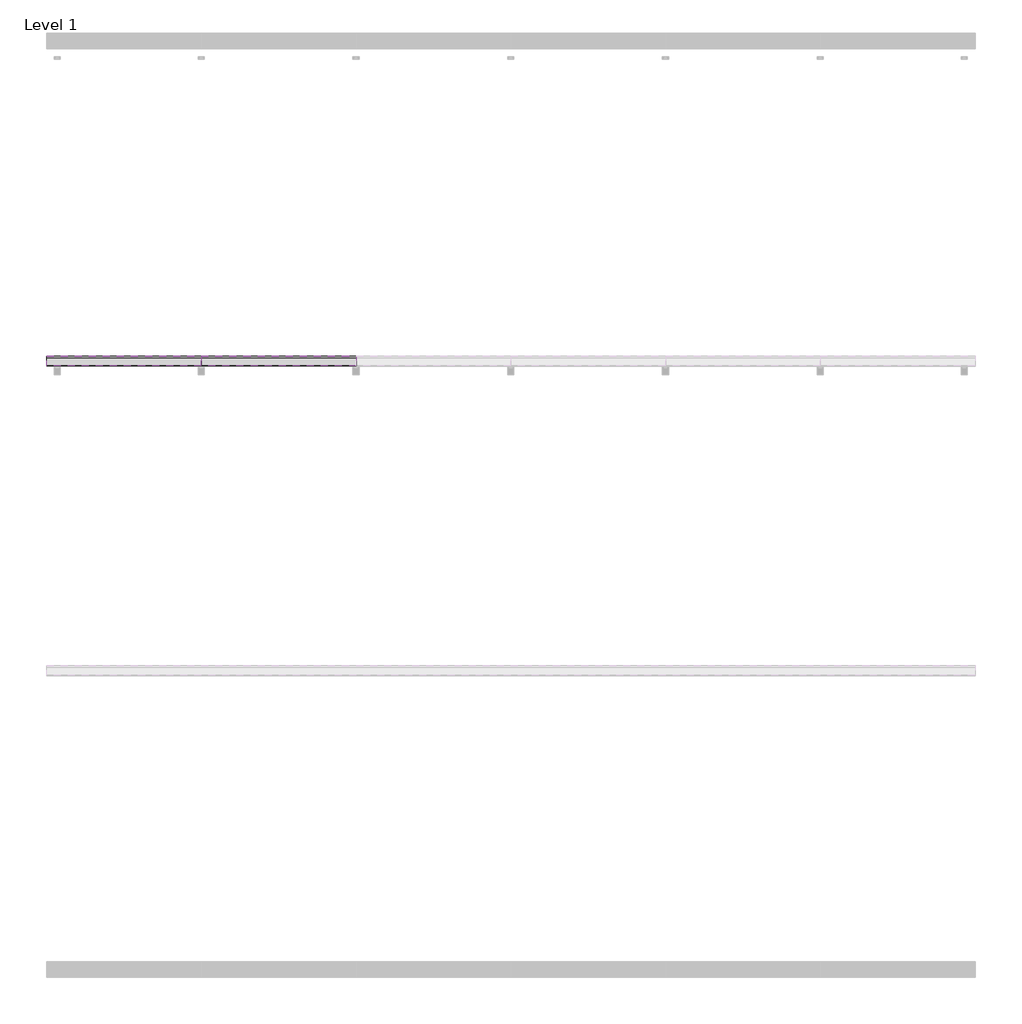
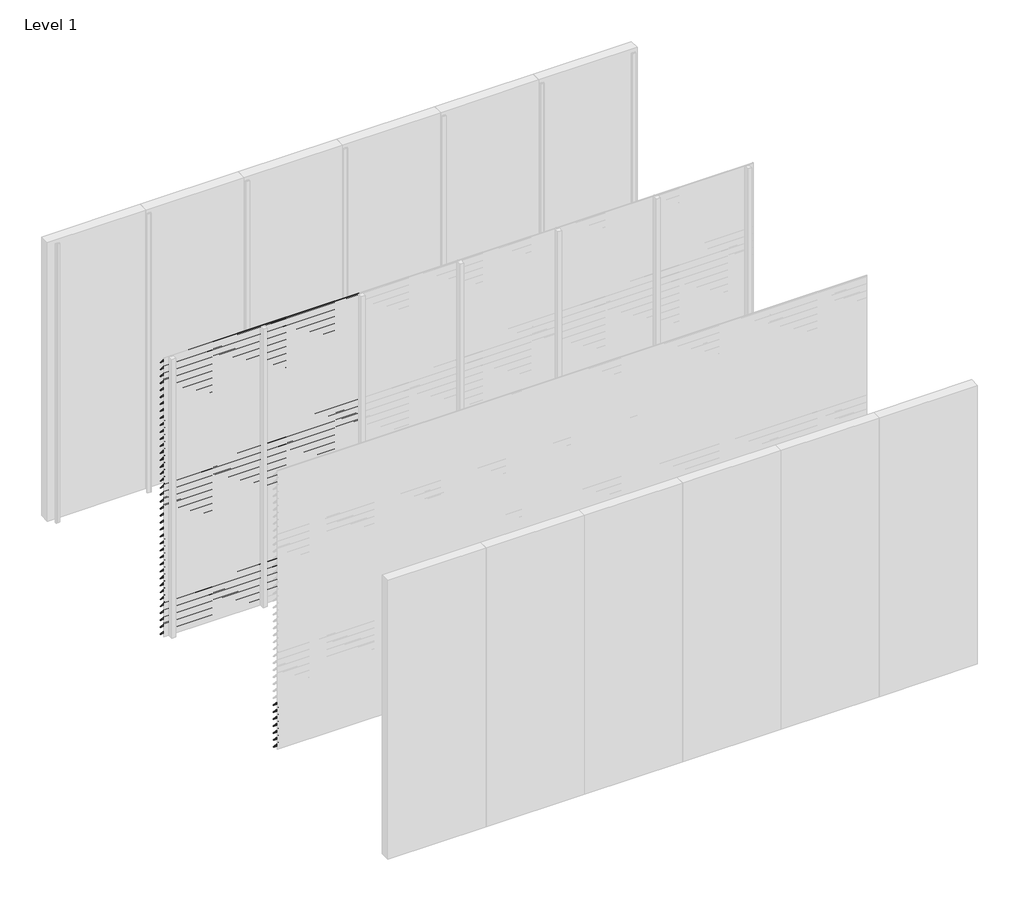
# One storey, part 17 of 35: 86 proxies.
"""IFC4 building model written with IfcOpenShell, lengths in millimetres."""

from ifc_helpers import new_model, si_unit, frame, origin, place, context, project, spatial, polyline, outline, extrude, element, save

model = new_model("IFC4")

# Units and contexts
model_context = context("Model", 3, world=origin())
ifc_project = project(units=[si_unit("LENGTHUNIT", "METRE", prefix="MILLI")], contexts=[model_context])

# Site, building, storey
site = spatial("IfcSite", under=ifc_project)
building = spatial("IfcBuilding", under=site)
storey = spatial("IfcBuildingStorey", under=building, Name="Level 1", Elevation=0.0)

# Proxies
placement = place(None, origin())
element("IfcBuildingElementProxy", 1, Name="Wall Sweeps", at=placement, inside=storey, context=model_context, shape_type="SweptSolid", body=[
    extrude(outline(polyline([(-29996.5, 3000.0), (-29996.5, 2985.5463701), (-29934.5, 2913.9330051), (-29934.5, 2910.4), (-29936.0, 2910.4), (-29936.0, 2913.3738975), (-29998.0, 2984.9872626), (-29998.0, 3000.0), (-29996.5, 3000.0)])), frame((0.0, 0.0, 0.0), z_axis=(1.0, 0.0, 0.0), x_axis=(0.0, 1.0, 0.0)), (0.0, 0.0, 1.0), 1000.0),
])
element("IfcBuildingElementProxy", 2, Name="Wall Sweeps", at=placement, inside=storey, context=model_context, shape_type="SweptSolid", body=[
    extrude(outline(polyline([(-29996.5, 2925.0), (-29996.5, 2910.5463701), (-29934.5, 2838.9330051), (-29934.5, 2835.4), (-29936.0, 2835.4), (-29936.0, 2838.3738975), (-29998.0, 2909.9872626), (-29998.0, 2925.0), (-29996.5, 2925.0)])), frame((0.0, 0.0, 0.0), z_axis=(1.0, 0.0, 0.0), x_axis=(0.0, 1.0, 0.0)), (0.0, 0.0, 1.0), 1000.0),
])
element("IfcBuildingElementProxy", 3, Name="Wall Sweeps", at=placement, inside=storey, context=model_context, shape_type="SweptSolid", body=[
    extrude(outline(polyline([(-29996.5, 2850.0), (-29996.5, 2835.5463701), (-29934.5, 2763.9330051), (-29934.5, 2760.4), (-29936.0, 2760.4), (-29936.0, 2763.3738975), (-29998.0, 2834.9872626), (-29998.0, 2850.0), (-29996.5, 2850.0)])), frame((0.0, 0.0, 0.0), z_axis=(1.0, 0.0, 0.0), x_axis=(0.0, 1.0, 0.0)), (0.0, 0.0, 1.0), 1000.0),
])
element("IfcBuildingElementProxy", 4, Name="Wall Sweeps", at=placement, inside=storey, context=model_context, shape_type="SweptSolid", body=[
    extrude(outline(polyline([(-29996.5, 2775.0), (-29996.5, 2760.5463701), (-29934.5, 2688.9330051), (-29934.5, 2685.4), (-29936.0, 2685.4), (-29936.0, 2688.3738975), (-29998.0, 2759.9872626), (-29998.0, 2775.0), (-29996.5, 2775.0)])), frame((0.0, 0.0, 0.0), z_axis=(1.0, 0.0, 0.0), x_axis=(0.0, 1.0, 0.0)), (0.0, 0.0, 1.0), 1000.0),
])
element("IfcBuildingElementProxy", 5, Name="Wall Sweeps", at=placement, inside=storey, context=model_context, shape_type="SweptSolid", body=[
    extrude(outline(polyline([(-29996.5, 2700.0), (-29996.5, 2685.5463701), (-29934.5, 2613.9330051), (-29934.5, 2610.4), (-29936.0, 2610.4), (-29936.0, 2613.3738975), (-29998.0, 2684.9872626), (-29998.0, 2700.0), (-29996.5, 2700.0)])), frame((0.0, 0.0, 0.0), z_axis=(1.0, 0.0, 0.0), x_axis=(0.0, 1.0, 0.0)), (0.0, 0.0, 1.0), 1000.0),
])
element("IfcBuildingElementProxy", 6, Name="Wall Sweeps", at=placement, inside=storey, context=model_context, shape_type="SweptSolid", body=[
    extrude(outline(polyline([(-29996.5, 2625.0), (-29996.5, 2610.5463701), (-29934.5, 2538.9330051), (-29934.5, 2535.4), (-29936.0, 2535.4), (-29936.0, 2538.3738975), (-29998.0, 2609.9872626), (-29998.0, 2625.0), (-29996.5, 2625.0)])), frame((0.0, 0.0, 0.0), z_axis=(1.0, 0.0, 0.0), x_axis=(0.0, 1.0, 0.0)), (0.0, 0.0, 1.0), 1000.0),
])
element("IfcBuildingElementProxy", 7, Name="Wall Sweeps", at=placement, inside=storey, context=model_context, shape_type="SweptSolid", body=[
    extrude(outline(polyline([(-29996.5, 2550.0), (-29996.5, 2535.5463701), (-29934.5, 2463.9330051), (-29934.5, 2460.4), (-29936.0, 2460.4), (-29936.0, 2463.3738975), (-29998.0, 2534.9872626), (-29998.0, 2550.0), (-29996.5, 2550.0)])), frame((0.0, 0.0, 0.0), z_axis=(1.0, 0.0, 0.0), x_axis=(0.0, 1.0, 0.0)), (0.0, 0.0, 1.0), 1000.0),
])
element("IfcBuildingElementProxy", 8, Name="Wall Sweeps", at=placement, inside=storey, context=model_context, shape_type="SweptSolid", body=[
    extrude(outline(polyline([(-29996.5, 2475.0), (-29996.5, 2460.5463701), (-29934.5, 2388.9330051), (-29934.5, 2385.4), (-29936.0, 2385.4), (-29936.0, 2388.3738975), (-29998.0, 2459.9872626), (-29998.0, 2475.0), (-29996.5, 2475.0)])), frame((0.0, 0.0, 0.0), z_axis=(1.0, 0.0, 0.0), x_axis=(0.0, 1.0, 0.0)), (0.0, 0.0, 1.0), 1000.0),
])
element("IfcBuildingElementProxy", 9, Name="Wall Sweeps", at=placement, inside=storey, context=model_context, shape_type="SweptSolid", body=[
    extrude(outline(polyline([(-29996.5, 2400.0), (-29996.5, 2385.5463701), (-29934.5, 2313.9330051), (-29934.5, 2310.4), (-29936.0, 2310.4), (-29936.0, 2313.3738975), (-29998.0, 2384.9872626), (-29998.0, 2400.0), (-29996.5, 2400.0)])), frame((0.0, 0.0, 0.0), z_axis=(1.0, 0.0, 0.0), x_axis=(0.0, 1.0, 0.0)), (0.0, 0.0, 1.0), 1000.0),
])
element("IfcBuildingElementProxy", 10, Name="Wall Sweeps", at=placement, inside=storey, context=model_context, shape_type="SweptSolid", body=[
    extrude(outline(polyline([(-29996.5, 2325.0), (-29996.5, 2310.5463701), (-29934.5, 2238.9330051), (-29934.5, 2235.4), (-29936.0, 2235.4), (-29936.0, 2238.3738975), (-29998.0, 2309.9872626), (-29998.0, 2325.0), (-29996.5, 2325.0)])), frame((0.0, 0.0, 0.0), z_axis=(1.0, 0.0, 0.0), x_axis=(0.0, 1.0, 0.0)), (0.0, 0.0, 1.0), 1000.0),
])
element("IfcBuildingElementProxy", 11, Name="Wall Sweeps", at=placement, inside=storey, context=model_context, shape_type="SweptSolid", body=[
    extrude(outline(polyline([(-29996.5, 2250.0), (-29996.5, 2235.5463701), (-29934.5, 2163.9330051), (-29934.5, 2160.4), (-29936.0, 2160.4), (-29936.0, 2163.3738975), (-29998.0, 2234.9872626), (-29998.0, 2250.0), (-29996.5, 2250.0)])), frame((0.0, 0.0, 0.0), z_axis=(1.0, 0.0, 0.0), x_axis=(0.0, 1.0, 0.0)), (0.0, 0.0, 1.0), 1000.0),
])
element("IfcBuildingElementProxy", 12, Name="Wall Sweeps", at=placement, inside=storey, context=model_context, shape_type="SweptSolid", body=[
    extrude(outline(polyline([(-29996.5, 2175.0), (-29996.5, 2160.5463701), (-29934.5, 2088.9330051), (-29934.5, 2085.4), (-29936.0, 2085.4), (-29936.0, 2088.3738975), (-29998.0, 2159.9872626), (-29998.0, 2175.0), (-29996.5, 2175.0)])), frame((0.0, 0.0, 0.0), z_axis=(1.0, 0.0, 0.0), x_axis=(0.0, 1.0, 0.0)), (0.0, 0.0, 1.0), 1000.0),
])
element("IfcBuildingElementProxy", 13, Name="Wall Sweeps", at=placement, inside=storey, context=model_context, shape_type="SweptSolid", body=[
    extrude(outline(polyline([(-29996.5, 2100.0), (-29996.5, 2085.5463701), (-29934.5, 2013.9330051), (-29934.5, 2010.4), (-29936.0, 2010.4), (-29936.0, 2013.3738975), (-29998.0, 2084.9872626), (-29998.0, 2100.0), (-29996.5, 2100.0)])), frame((0.0, 0.0, 0.0), z_axis=(1.0, 0.0, 0.0), x_axis=(0.0, 1.0, 0.0)), (0.0, 0.0, 1.0), 1000.0),
])
element("IfcBuildingElementProxy", 14, Name="Wall Sweeps", at=placement, inside=storey, context=model_context, shape_type="SweptSolid", body=[
    extrude(outline(polyline([(-29996.5, 2025.0), (-29996.5, 2010.5463701), (-29934.5, 1938.9330051), (-29934.5, 1935.4), (-29936.0, 1935.4), (-29936.0, 1938.3738975), (-29998.0, 2009.9872626), (-29998.0, 2025.0), (-29996.5, 2025.0)])), frame((0.0, 0.0, 0.0), z_axis=(1.0, 0.0, 0.0), x_axis=(0.0, 1.0, 0.0)), (0.0, 0.0, 1.0), 1000.0),
])
element("IfcBuildingElementProxy", 15, Name="Wall Sweeps", at=placement, inside=storey, context=model_context, shape_type="SweptSolid", body=[
    extrude(outline(polyline([(-29996.5, 1950.0), (-29996.5, 1935.5463701), (-29934.5, 1863.9330051), (-29934.5, 1860.4), (-29936.0, 1860.4), (-29936.0, 1863.3738975), (-29998.0, 1934.9872626), (-29998.0, 1950.0), (-29996.5, 1950.0)])), frame((0.0, 0.0, 0.0), z_axis=(1.0, 0.0, 0.0), x_axis=(0.0, 1.0, 0.0)), (0.0, 0.0, 1.0), 1000.0),
])
element("IfcBuildingElementProxy", 16, Name="Wall Sweeps", at=placement, inside=storey, context=model_context, shape_type="SweptSolid", body=[
    extrude(outline(polyline([(-29996.5, 1875.0), (-29996.5, 1860.5463701), (-29934.5, 1788.9330051), (-29934.5, 1785.4), (-29936.0, 1785.4), (-29936.0, 1788.3738975), (-29998.0, 1859.9872626), (-29998.0, 1875.0), (-29996.5, 1875.0)])), frame((0.0, 0.0, 0.0), z_axis=(1.0, 0.0, 0.0), x_axis=(0.0, 1.0, 0.0)), (0.0, 0.0, 1.0), 1000.0),
])
element("IfcBuildingElementProxy", 17, Name="Wall Sweeps", at=placement, inside=storey, context=model_context, shape_type="SweptSolid", body=[
    extrude(outline(polyline([(-29996.5, 1800.0), (-29996.5, 1785.5463701), (-29934.5, 1713.9330051), (-29934.5, 1710.4), (-29936.0, 1710.4), (-29936.0, 1713.3738975), (-29998.0, 1784.9872626), (-29998.0, 1800.0), (-29996.5, 1800.0)])), frame((0.0, 0.0, 0.0), z_axis=(1.0, 0.0, 0.0), x_axis=(0.0, 1.0, 0.0)), (0.0, 0.0, 1.0), 1000.0),
])
element("IfcBuildingElementProxy", 18, Name="Wall Sweeps", at=placement, inside=storey, context=model_context, shape_type="SweptSolid", body=[
    extrude(outline(polyline([(-29996.5, 1725.0), (-29996.5, 1710.5463701), (-29934.5, 1638.9330051), (-29934.5, 1635.4), (-29936.0, 1635.4), (-29936.0, 1638.3738975), (-29998.0, 1709.9872626), (-29998.0, 1725.0), (-29996.5, 1725.0)])), frame((0.0, 0.0, 0.0), z_axis=(1.0, 0.0, 0.0), x_axis=(0.0, 1.0, 0.0)), (0.0, 0.0, 1.0), 1000.0),
])
element("IfcBuildingElementProxy", 19, Name="Wall Sweeps", at=placement, inside=storey, context=model_context, shape_type="SweptSolid", body=[
    extrude(outline(polyline([(-29996.5, 1650.0), (-29996.5, 1635.5463701), (-29934.5, 1563.9330051), (-29934.5, 1560.4), (-29936.0, 1560.4), (-29936.0, 1563.3738975), (-29998.0, 1634.9872626), (-29998.0, 1650.0), (-29996.5, 1650.0)])), frame((0.0, 0.0, 0.0), z_axis=(1.0, 0.0, 0.0), x_axis=(0.0, 1.0, 0.0)), (0.0, 0.0, 1.0), 1000.0),
])
element("IfcBuildingElementProxy", 20, Name="Wall Sweeps", at=placement, inside=storey, context=model_context, shape_type="SweptSolid", body=[
    extrude(outline(polyline([(-29996.5, 1575.0), (-29996.5, 1560.5463701), (-29934.5, 1488.9330051), (-29934.5, 1485.4), (-29936.0, 1485.4), (-29936.0, 1488.3738975), (-29998.0, 1559.9872626), (-29998.0, 1575.0), (-29996.5, 1575.0)])), frame((0.0, 0.0, 0.0), z_axis=(1.0, 0.0, 0.0), x_axis=(0.0, 1.0, 0.0)), (0.0, 0.0, 1.0), 1000.0),
])
element("IfcBuildingElementProxy", 21, Name="Wall Sweeps", at=placement, inside=storey, context=model_context, shape_type="SweptSolid", body=[
    extrude(outline(polyline([(-29996.5, 1500.0), (-29996.5, 1485.5463701), (-29934.5, 1413.9330051), (-29934.5, 1410.4), (-29936.0, 1410.4), (-29936.0, 1413.3738975), (-29998.0, 1484.9872626), (-29998.0, 1500.0), (-29996.5, 1500.0)])), frame((0.0, 0.0, 0.0), z_axis=(1.0, 0.0, 0.0), x_axis=(0.0, 1.0, 0.0)), (0.0, 0.0, 1.0), 1000.0),
])
element("IfcBuildingElementProxy", 22, Name="Wall Sweeps", at=placement, inside=storey, context=model_context, shape_type="SweptSolid", body=[
    extrude(outline(polyline([(-29996.5, 1425.0), (-29996.5, 1410.5463701), (-29934.5, 1338.9330051), (-29934.5, 1335.4), (-29936.0, 1335.4), (-29936.0, 1338.3738975), (-29998.0, 1409.9872626), (-29998.0, 1425.0), (-29996.5, 1425.0)])), frame((0.0, 0.0, 0.0), z_axis=(1.0, 0.0, 0.0), x_axis=(0.0, 1.0, 0.0)), (0.0, 0.0, 1.0), 1000.0),
])
element("IfcBuildingElementProxy", 23, Name="Wall Sweeps", at=placement, inside=storey, context=model_context, shape_type="SweptSolid", body=[
    extrude(outline(polyline([(-29996.5, 1350.0), (-29996.5, 1335.5463701), (-29934.5, 1263.9330051), (-29934.5, 1260.4), (-29936.0, 1260.4), (-29936.0, 1263.3738975), (-29998.0, 1334.9872626), (-29998.0, 1350.0), (-29996.5, 1350.0)])), frame((0.0, 0.0, 0.0), z_axis=(1.0, 0.0, 0.0), x_axis=(0.0, 1.0, 0.0)), (0.0, 0.0, 1.0), 1000.0),
])
element("IfcBuildingElementProxy", 24, Name="Wall Sweeps", at=placement, inside=storey, context=model_context, shape_type="SweptSolid", body=[
    extrude(outline(polyline([(-29996.5, 1275.0), (-29996.5, 1260.5463701), (-29934.5, 1188.9330051), (-29934.5, 1185.4), (-29936.0, 1185.4), (-29936.0, 1188.3738975), (-29998.0, 1259.9872626), (-29998.0, 1275.0), (-29996.5, 1275.0)])), frame((0.0, 0.0, 0.0), z_axis=(1.0, 0.0, 0.0), x_axis=(0.0, 1.0, 0.0)), (0.0, 0.0, 1.0), 1000.0),
])
element("IfcBuildingElementProxy", 25, Name="Wall Sweeps", at=placement, inside=storey, context=model_context, shape_type="SweptSolid", body=[
    extrude(outline(polyline([(-29996.5, 1200.0), (-29996.5, 1185.5463701), (-29934.5, 1113.9330051), (-29934.5, 1110.4), (-29936.0, 1110.4), (-29936.0, 1113.3738975), (-29998.0, 1184.9872626), (-29998.0, 1200.0), (-29996.5, 1200.0)])), frame((0.0, 0.0, 0.0), z_axis=(1.0, 0.0, 0.0), x_axis=(0.0, 1.0, 0.0)), (0.0, 0.0, 1.0), 1000.0),
])
element("IfcBuildingElementProxy", 26, Name="Wall Sweeps", at=placement, inside=storey, context=model_context, shape_type="SweptSolid", body=[
    extrude(outline(polyline([(-29996.5, 1125.0), (-29996.5, 1110.5463701), (-29934.5, 1038.9330051), (-29934.5, 1035.4), (-29936.0, 1035.4), (-29936.0, 1038.3738975), (-29998.0, 1109.9872626), (-29998.0, 1125.0), (-29996.5, 1125.0)])), frame((0.0, 0.0, 0.0), z_axis=(1.0, 0.0, 0.0), x_axis=(0.0, 1.0, 0.0)), (0.0, 0.0, 1.0), 1000.0),
])
element("IfcBuildingElementProxy", 27, Name="Wall Sweeps", at=placement, inside=storey, context=model_context, shape_type="SweptSolid", body=[
    extrude(outline(polyline([(-29996.5, 1050.0), (-29996.5, 1035.5463701), (-29934.5, 963.9330051), (-29934.5, 960.4), (-29936.0, 960.4), (-29936.0, 963.3738975), (-29998.0, 1034.9872626), (-29998.0, 1050.0), (-29996.5, 1050.0)])), frame((0.0, 0.0, 0.0), z_axis=(1.0, 0.0, 0.0), x_axis=(0.0, 1.0, 0.0)), (0.0, 0.0, 1.0), 1000.0),
])
element("IfcBuildingElementProxy", 28, Name="Wall Sweeps", at=placement, inside=storey, context=model_context, shape_type="SweptSolid", body=[
    extrude(outline(polyline([(-29996.5, 975.0), (-29996.5, 960.5463701), (-29934.5, 888.9330051), (-29934.5, 885.4), (-29936.0, 885.4), (-29936.0, 888.3738975), (-29998.0, 959.9872626), (-29998.0, 975.0), (-29996.5, 975.0)])), frame((0.0, 0.0, 0.0), z_axis=(1.0, 0.0, 0.0), x_axis=(0.0, 1.0, 0.0)), (0.0, 0.0, 1.0), 1000.0),
])
element("IfcBuildingElementProxy", 29, Name="Wall Sweeps", at=placement, inside=storey, context=model_context, shape_type="SweptSolid", body=[
    extrude(outline(polyline([(-29996.5, 900.0), (-29996.5, 885.5463701), (-29934.5, 813.9330051), (-29934.5, 810.4), (-29936.0, 810.4), (-29936.0, 813.3738975), (-29998.0, 884.9872626), (-29998.0, 900.0), (-29996.5, 900.0)])), frame((0.0, 0.0, 0.0), z_axis=(1.0, 0.0, 0.0), x_axis=(0.0, 1.0, 0.0)), (0.0, 0.0, 1.0), 1000.0),
])
element("IfcBuildingElementProxy", 30, Name="Wall Sweeps", at=placement, inside=storey, context=model_context, shape_type="SweptSolid", body=[
    extrude(outline(polyline([(-29996.5, 825.0), (-29996.5, 810.5463701), (-29934.5, 738.9330051), (-29934.5, 735.4), (-29936.0, 735.4), (-29936.0, 738.3738975), (-29998.0, 809.9872626), (-29998.0, 825.0), (-29996.5, 825.0)])), frame((0.0, 0.0, 0.0), z_axis=(1.0, 0.0, 0.0), x_axis=(0.0, 1.0, 0.0)), (0.0, 0.0, 1.0), 1000.0),
])
element("IfcBuildingElementProxy", 31, Name="Wall Sweeps", at=placement, inside=storey, context=model_context, shape_type="SweptSolid", body=[
    extrude(outline(polyline([(-29996.5, 750.0), (-29996.5, 735.5463701), (-29934.5, 663.9330051), (-29934.5, 660.4), (-29936.0, 660.4), (-29936.0, 663.3738975), (-29998.0, 734.9872626), (-29998.0, 750.0), (-29996.5, 750.0)])), frame((0.0, 0.0, 0.0), z_axis=(1.0, 0.0, 0.0), x_axis=(0.0, 1.0, 0.0)), (0.0, 0.0, 1.0), 1000.0),
])
element("IfcBuildingElementProxy", 32, Name="Wall Sweeps", at=placement, inside=storey, context=model_context, shape_type="SweptSolid", body=[
    extrude(outline(polyline([(-29996.5, 675.0), (-29996.5, 660.5463701), (-29934.5, 588.9330051), (-29934.5, 585.4), (-29936.0, 585.4), (-29936.0, 588.3738975), (-29998.0, 659.9872626), (-29998.0, 675.0), (-29996.5, 675.0)])), frame((0.0, 0.0, 0.0), z_axis=(1.0, 0.0, 0.0), x_axis=(0.0, 1.0, 0.0)), (0.0, 0.0, 1.0), 1000.0),
])
element("IfcBuildingElementProxy", 33, Name="Wall Sweeps", at=placement, inside=storey, context=model_context, shape_type="SweptSolid", body=[
    extrude(outline(polyline([(-29996.5, 600.0), (-29996.5, 585.5463701), (-29934.5, 513.9330051), (-29934.5, 510.4), (-29936.0, 510.4), (-29936.0, 513.3738975), (-29998.0, 584.9872626), (-29998.0, 600.0), (-29996.5, 600.0)])), frame((0.0, 0.0, 0.0), z_axis=(1.0, 0.0, 0.0), x_axis=(0.0, 1.0, 0.0)), (0.0, 0.0, 1.0), 1000.0),
])
element("IfcBuildingElementProxy", 34, Name="Wall Sweeps", at=placement, inside=storey, context=model_context, shape_type="SweptSolid", body=[
    extrude(outline(polyline([(-29996.5, 525.0), (-29996.5, 510.5463701), (-29934.5, 438.9330051), (-29934.5, 435.4), (-29936.0, 435.4), (-29936.0, 438.3738975), (-29998.0, 509.9872626), (-29998.0, 525.0), (-29996.5, 525.0)])), frame((0.0, 0.0, 0.0), z_axis=(1.0, 0.0, 0.0), x_axis=(0.0, 1.0, 0.0)), (0.0, 0.0, 1.0), 1000.0),
])
element("IfcBuildingElementProxy", 35, Name="Wall Sweeps", at=placement, inside=storey, context=model_context, shape_type="SweptSolid", body=[
    extrude(outline(polyline([(-29996.5, 450.0), (-29996.5, 435.5463701), (-29934.5, 363.9330051), (-29934.5, 360.4), (-29936.0, 360.4), (-29936.0, 363.3738975), (-29998.0, 434.9872626), (-29998.0, 450.0), (-29996.5, 450.0)])), frame((0.0, 0.0, 0.0), z_axis=(1.0, 0.0, 0.0), x_axis=(0.0, 1.0, 0.0)), (0.0, 0.0, 1.0), 1000.0),
])
element("IfcBuildingElementProxy", 36, Name="Wall Sweeps", at=placement, inside=storey, context=model_context, shape_type="SweptSolid", body=[
    extrude(outline(polyline([(-29996.5, 375.0), (-29996.5, 360.5463701), (-29934.5, 288.9330051), (-29934.5, 285.4), (-29936.0, 285.4), (-29936.0, 288.3738975), (-29998.0, 359.9872626), (-29998.0, 375.0), (-29996.5, 375.0)])), frame((0.0, 0.0, 0.0), z_axis=(1.0, 0.0, 0.0), x_axis=(0.0, 1.0, 0.0)), (0.0, 0.0, 1.0), 1000.0),
])
element("IfcBuildingElementProxy", 37, Name="Wall Sweeps", at=placement, inside=storey, context=model_context, shape_type="SweptSolid", body=[
    extrude(outline(polyline([(-29996.5, 300.0), (-29996.5, 285.5463701), (-29934.5, 213.9330051), (-29934.5, 210.4), (-29936.0, 210.4), (-29936.0, 213.3738975), (-29998.0, 284.9872626), (-29998.0, 300.0), (-29996.5, 300.0)])), frame((0.0, 0.0, 0.0), z_axis=(1.0, 0.0, 0.0), x_axis=(0.0, 1.0, 0.0)), (0.0, 0.0, 1.0), 1000.0),
])
element("IfcBuildingElementProxy", 38, Name="Wall Sweeps", at=placement, inside=storey, context=model_context, shape_type="SweptSolid", body=[
    extrude(outline(polyline([(-29996.5, 225.0), (-29996.5, 210.5463701), (-29934.5, 138.9330051), (-29934.5, 135.4), (-29936.0, 135.4), (-29936.0, 138.3738975), (-29998.0, 209.9872626), (-29998.0, 225.0), (-29996.5, 225.0)])), frame((0.0, 0.0, 0.0), z_axis=(1.0, 0.0, 0.0), x_axis=(0.0, 1.0, 0.0)), (0.0, 0.0, 1.0), 1000.0),
])
element("IfcBuildingElementProxy", 39, Name="Wall Sweeps", at=placement, inside=storey, context=model_context, shape_type="SweptSolid", body=[
    extrude(outline(polyline([(-29996.5, 150.0), (-29996.5, 135.5463701), (-29934.5, 63.9330051), (-29934.5, 60.4), (-29936.0, 60.4), (-29936.0, 63.3738975), (-29998.0, 134.9872626), (-29998.0, 150.0), (-29996.5, 150.0)])), frame((0.0, 0.0, 0.0), z_axis=(1.0, 0.0, 0.0), x_axis=(0.0, 1.0, 0.0)), (0.0, 0.0, 1.0), 1000.0),
])
element("IfcBuildingElementProxy", 40, Name="Wall Sweeps", at=placement, inside=storey, context=model_context, shape_type="SweptSolid", body=[
    extrude(outline(polyline([(-29996.5, 75.0), (-29996.5, 60.5463701), (-29934.5, -11.0669949), (-29934.5, -14.6), (-29936.0, -14.6), (-29936.0, -11.6261025), (-29998.0, 59.9872626), (-29998.0, 75.0), (-29996.5, 75.0)])), frame((0.0, 0.0, 0.0), z_axis=(1.0, 0.0, 0.0), x_axis=(0.0, 1.0, 0.0)), (0.0, 0.0, 1.0), 1000.0),
])
element("IfcBuildingElementProxy", 41, Name="Wall Sweeps", at=placement, inside=storey, context=model_context, shape_type="SweptSolid", body=[
    extrude(outline(polyline([(-29996.5, 3000.0), (-29996.5, 2985.5463701), (-29934.5, 2913.9330051), (-29934.5, 2910.4), (-29936.0, 2910.4), (-29936.0, 2913.3738975), (-29998.0, 2984.9872626), (-29998.0, 3000.0), (-29996.5, 3000.0)])), frame((1000.0, 0.0, 0.0), z_axis=(1.0, 0.0, 0.0), x_axis=(0.0, 1.0, 0.0)), (0.0, 0.0, 1.0), 1000.0),
])
element("IfcBuildingElementProxy", 42, Name="Wall Sweeps", at=placement, inside=storey, context=model_context, shape_type="SweptSolid", body=[
    extrude(outline(polyline([(-29996.5, 2925.0), (-29996.5, 2910.5463701), (-29934.5, 2838.9330051), (-29934.5, 2835.4), (-29936.0, 2835.4), (-29936.0, 2838.3738975), (-29998.0, 2909.9872626), (-29998.0, 2925.0), (-29996.5, 2925.0)])), frame((1000.0, 0.0, 0.0), z_axis=(1.0, 0.0, 0.0), x_axis=(0.0, 1.0, 0.0)), (0.0, 0.0, 1.0), 1000.0),
])
element("IfcBuildingElementProxy", 43, Name="Wall Sweeps", at=placement, inside=storey, context=model_context, shape_type="SweptSolid", body=[
    extrude(outline(polyline([(-29996.5, 2850.0), (-29996.5, 2835.5463701), (-29934.5, 2763.9330051), (-29934.5, 2760.4), (-29936.0, 2760.4), (-29936.0, 2763.3738975), (-29998.0, 2834.9872626), (-29998.0, 2850.0), (-29996.5, 2850.0)])), frame((1000.0, 0.0, 0.0), z_axis=(1.0, 0.0, 0.0), x_axis=(0.0, 1.0, 0.0)), (0.0, 0.0, 1.0), 1000.0),
])
element("IfcBuildingElementProxy", 44, Name="Wall Sweeps", at=placement, inside=storey, context=model_context, shape_type="SweptSolid", body=[
    extrude(outline(polyline([(-29996.5, 2775.0), (-29996.5, 2760.5463701), (-29934.5, 2688.9330051), (-29934.5, 2685.4), (-29936.0, 2685.4), (-29936.0, 2688.3738975), (-29998.0, 2759.9872626), (-29998.0, 2775.0), (-29996.5, 2775.0)])), frame((1000.0, 0.0, 0.0), z_axis=(1.0, 0.0, 0.0), x_axis=(0.0, 1.0, 0.0)), (0.0, 0.0, 1.0), 1000.0),
])
element("IfcBuildingElementProxy", 45, Name="Wall Sweeps", at=placement, inside=storey, context=model_context, shape_type="SweptSolid", body=[
    extrude(outline(polyline([(-29996.5, 2700.0), (-29996.5, 2685.5463701), (-29934.5, 2613.9330051), (-29934.5, 2610.4), (-29936.0, 2610.4), (-29936.0, 2613.3738975), (-29998.0, 2684.9872626), (-29998.0, 2700.0), (-29996.5, 2700.0)])), frame((1000.0, 0.0, 0.0), z_axis=(1.0, 0.0, 0.0), x_axis=(0.0, 1.0, 0.0)), (0.0, 0.0, 1.0), 1000.0),
])
element("IfcBuildingElementProxy", 46, Name="Wall Sweeps", at=placement, inside=storey, context=model_context, shape_type="SweptSolid", body=[
    extrude(outline(polyline([(-29996.5, 2625.0), (-29996.5, 2610.5463701), (-29934.5, 2538.9330051), (-29934.5, 2535.4), (-29936.0, 2535.4), (-29936.0, 2538.3738975), (-29998.0, 2609.9872626), (-29998.0, 2625.0), (-29996.5, 2625.0)])), frame((1000.0, 0.0, 0.0), z_axis=(1.0, 0.0, 0.0), x_axis=(0.0, 1.0, 0.0)), (0.0, 0.0, 1.0), 1000.0),
])
element("IfcBuildingElementProxy", 47, Name="Wall Sweeps", at=placement, inside=storey, context=model_context, shape_type="SweptSolid", body=[
    extrude(outline(polyline([(-29996.5, 2550.0), (-29996.5, 2535.5463701), (-29934.5, 2463.9330051), (-29934.5, 2460.4), (-29936.0, 2460.4), (-29936.0, 2463.3738975), (-29998.0, 2534.9872626), (-29998.0, 2550.0), (-29996.5, 2550.0)])), frame((1000.0, 0.0, 0.0), z_axis=(1.0, 0.0, 0.0), x_axis=(0.0, 1.0, 0.0)), (0.0, 0.0, 1.0), 1000.0),
])
element("IfcBuildingElementProxy", 48, Name="Wall Sweeps", at=placement, inside=storey, context=model_context, shape_type="SweptSolid", body=[
    extrude(outline(polyline([(-29996.5, 2475.0), (-29996.5, 2460.5463701), (-29934.5, 2388.9330051), (-29934.5, 2385.4), (-29936.0, 2385.4), (-29936.0, 2388.3738975), (-29998.0, 2459.9872626), (-29998.0, 2475.0), (-29996.5, 2475.0)])), frame((1000.0, 0.0, 0.0), z_axis=(1.0, 0.0, 0.0), x_axis=(0.0, 1.0, 0.0)), (0.0, 0.0, 1.0), 1000.0),
])
element("IfcBuildingElementProxy", 49, Name="Wall Sweeps", at=placement, inside=storey, context=model_context, shape_type="SweptSolid", body=[
    extrude(outline(polyline([(-29996.5, 2400.0), (-29996.5, 2385.5463701), (-29934.5, 2313.9330051), (-29934.5, 2310.4), (-29936.0, 2310.4), (-29936.0, 2313.3738975), (-29998.0, 2384.9872626), (-29998.0, 2400.0), (-29996.5, 2400.0)])), frame((1000.0, 0.0, 0.0), z_axis=(1.0, 0.0, 0.0), x_axis=(0.0, 1.0, 0.0)), (0.0, 0.0, 1.0), 1000.0),
])
element("IfcBuildingElementProxy", 50, Name="Wall Sweeps", at=placement, inside=storey, context=model_context, shape_type="SweptSolid", body=[
    extrude(outline(polyline([(-29996.5, 2325.0), (-29996.5, 2310.5463701), (-29934.5, 2238.9330051), (-29934.5, 2235.4), (-29936.0, 2235.4), (-29936.0, 2238.3738975), (-29998.0, 2309.9872626), (-29998.0, 2325.0), (-29996.5, 2325.0)])), frame((1000.0, 0.0, 0.0), z_axis=(1.0, 0.0, 0.0), x_axis=(0.0, 1.0, 0.0)), (0.0, 0.0, 1.0), 1000.0),
])
element("IfcBuildingElementProxy", 51, Name="Wall Sweeps", at=placement, inside=storey, context=model_context, shape_type="SweptSolid", body=[
    extrude(outline(polyline([(-29996.5, 2250.0), (-29996.5, 2235.5463701), (-29934.5, 2163.9330051), (-29934.5, 2160.4), (-29936.0, 2160.4), (-29936.0, 2163.3738975), (-29998.0, 2234.9872626), (-29998.0, 2250.0), (-29996.5, 2250.0)])), frame((1000.0, 0.0, 0.0), z_axis=(1.0, 0.0, 0.0), x_axis=(0.0, 1.0, 0.0)), (0.0, 0.0, 1.0), 1000.0),
])
element("IfcBuildingElementProxy", 52, Name="Wall Sweeps", at=placement, inside=storey, context=model_context, shape_type="SweptSolid", body=[
    extrude(outline(polyline([(-29996.5, 2175.0), (-29996.5, 2160.5463701), (-29934.5, 2088.9330051), (-29934.5, 2085.4), (-29936.0, 2085.4), (-29936.0, 2088.3738975), (-29998.0, 2159.9872626), (-29998.0, 2175.0), (-29996.5, 2175.0)])), frame((1000.0, 0.0, 0.0), z_axis=(1.0, 0.0, 0.0), x_axis=(0.0, 1.0, 0.0)), (0.0, 0.0, 1.0), 1000.0),
])
element("IfcBuildingElementProxy", 53, Name="Wall Sweeps", at=placement, inside=storey, context=model_context, shape_type="SweptSolid", body=[
    extrude(outline(polyline([(-29996.5, 2100.0), (-29996.5, 2085.5463701), (-29934.5, 2013.9330051), (-29934.5, 2010.4), (-29936.0, 2010.4), (-29936.0, 2013.3738975), (-29998.0, 2084.9872626), (-29998.0, 2100.0), (-29996.5, 2100.0)])), frame((1000.0, 0.0, 0.0), z_axis=(1.0, 0.0, 0.0), x_axis=(0.0, 1.0, 0.0)), (0.0, 0.0, 1.0), 1000.0),
])
element("IfcBuildingElementProxy", 54, Name="Wall Sweeps", at=placement, inside=storey, context=model_context, shape_type="SweptSolid", body=[
    extrude(outline(polyline([(-29996.5, 2025.0), (-29996.5, 2010.5463701), (-29934.5, 1938.9330051), (-29934.5, 1935.4), (-29936.0, 1935.4), (-29936.0, 1938.3738975), (-29998.0, 2009.9872626), (-29998.0, 2025.0), (-29996.5, 2025.0)])), frame((1000.0, 0.0, 0.0), z_axis=(1.0, 0.0, 0.0), x_axis=(0.0, 1.0, 0.0)), (0.0, 0.0, 1.0), 1000.0),
])
element("IfcBuildingElementProxy", 55, Name="Wall Sweeps", at=placement, inside=storey, context=model_context, shape_type="SweptSolid", body=[
    extrude(outline(polyline([(-29996.5, 1950.0), (-29996.5, 1935.5463701), (-29934.5, 1863.9330051), (-29934.5, 1860.4), (-29936.0, 1860.4), (-29936.0, 1863.3738975), (-29998.0, 1934.9872626), (-29998.0, 1950.0), (-29996.5, 1950.0)])), frame((1000.0, 0.0, 0.0), z_axis=(1.0, 0.0, 0.0), x_axis=(0.0, 1.0, 0.0)), (0.0, 0.0, 1.0), 1000.0),
])
element("IfcBuildingElementProxy", 56, Name="Wall Sweeps", at=placement, inside=storey, context=model_context, shape_type="SweptSolid", body=[
    extrude(outline(polyline([(-29996.5, 1875.0), (-29996.5, 1860.5463701), (-29934.5, 1788.9330051), (-29934.5, 1785.4), (-29936.0, 1785.4), (-29936.0, 1788.3738975), (-29998.0, 1859.9872626), (-29998.0, 1875.0), (-29996.5, 1875.0)])), frame((1000.0, 0.0, 0.0), z_axis=(1.0, 0.0, 0.0), x_axis=(0.0, 1.0, 0.0)), (0.0, 0.0, 1.0), 1000.0),
])
element("IfcBuildingElementProxy", 57, Name="Wall Sweeps", at=placement, inside=storey, context=model_context, shape_type="SweptSolid", body=[
    extrude(outline(polyline([(-29996.5, 1800.0), (-29996.5, 1785.5463701), (-29934.5, 1713.9330051), (-29934.5, 1710.4), (-29936.0, 1710.4), (-29936.0, 1713.3738975), (-29998.0, 1784.9872626), (-29998.0, 1800.0), (-29996.5, 1800.0)])), frame((1000.0, 0.0, 0.0), z_axis=(1.0, 0.0, 0.0), x_axis=(0.0, 1.0, 0.0)), (0.0, 0.0, 1.0), 1000.0),
])
element("IfcBuildingElementProxy", 58, Name="Wall Sweeps", at=placement, inside=storey, context=model_context, shape_type="SweptSolid", body=[
    extrude(outline(polyline([(-29996.5, 1725.0), (-29996.5, 1710.5463701), (-29934.5, 1638.9330051), (-29934.5, 1635.4), (-29936.0, 1635.4), (-29936.0, 1638.3738975), (-29998.0, 1709.9872626), (-29998.0, 1725.0), (-29996.5, 1725.0)])), frame((1000.0, 0.0, 0.0), z_axis=(1.0, 0.0, 0.0), x_axis=(0.0, 1.0, 0.0)), (0.0, 0.0, 1.0), 1000.0),
])
element("IfcBuildingElementProxy", 59, Name="Wall Sweeps", at=placement, inside=storey, context=model_context, shape_type="SweptSolid", body=[
    extrude(outline(polyline([(-29996.5, 1650.0), (-29996.5, 1635.5463701), (-29934.5, 1563.9330051), (-29934.5, 1560.4), (-29936.0, 1560.4), (-29936.0, 1563.3738975), (-29998.0, 1634.9872626), (-29998.0, 1650.0), (-29996.5, 1650.0)])), frame((1000.0, 0.0, 0.0), z_axis=(1.0, 0.0, 0.0), x_axis=(0.0, 1.0, 0.0)), (0.0, 0.0, 1.0), 1000.0),
])
element("IfcBuildingElementProxy", 60, Name="Wall Sweeps", at=placement, inside=storey, context=model_context, shape_type="SweptSolid", body=[
    extrude(outline(polyline([(-29996.5, 1575.0), (-29996.5, 1560.5463701), (-29934.5, 1488.9330051), (-29934.5, 1485.4), (-29936.0, 1485.4), (-29936.0, 1488.3738975), (-29998.0, 1559.9872626), (-29998.0, 1575.0), (-29996.5, 1575.0)])), frame((1000.0, 0.0, 0.0), z_axis=(1.0, 0.0, 0.0), x_axis=(0.0, 1.0, 0.0)), (0.0, 0.0, 1.0), 1000.0),
])
element("IfcBuildingElementProxy", 61, Name="Wall Sweeps", at=placement, inside=storey, context=model_context, shape_type="SweptSolid", body=[
    extrude(outline(polyline([(-29996.5, 1500.0), (-29996.5, 1485.5463701), (-29934.5, 1413.9330051), (-29934.5, 1410.4), (-29936.0, 1410.4), (-29936.0, 1413.3738975), (-29998.0, 1484.9872626), (-29998.0, 1500.0), (-29996.5, 1500.0)])), frame((1000.0, 0.0, 0.0), z_axis=(1.0, 0.0, 0.0), x_axis=(0.0, 1.0, 0.0)), (0.0, 0.0, 1.0), 1000.0),
])
element("IfcBuildingElementProxy", 62, Name="Wall Sweeps", at=placement, inside=storey, context=model_context, shape_type="SweptSolid", body=[
    extrude(outline(polyline([(-29996.5, 1425.0), (-29996.5, 1410.5463701), (-29934.5, 1338.9330051), (-29934.5, 1335.4), (-29936.0, 1335.4), (-29936.0, 1338.3738975), (-29998.0, 1409.9872626), (-29998.0, 1425.0), (-29996.5, 1425.0)])), frame((1000.0, 0.0, 0.0), z_axis=(1.0, 0.0, 0.0), x_axis=(0.0, 1.0, 0.0)), (0.0, 0.0, 1.0), 1000.0),
])
element("IfcBuildingElementProxy", 63, Name="Wall Sweeps", at=placement, inside=storey, context=model_context, shape_type="SweptSolid", body=[
    extrude(outline(polyline([(-29996.5, 1350.0), (-29996.5, 1335.5463701), (-29934.5, 1263.9330051), (-29934.5, 1260.4), (-29936.0, 1260.4), (-29936.0, 1263.3738975), (-29998.0, 1334.9872626), (-29998.0, 1350.0), (-29996.5, 1350.0)])), frame((1000.0, 0.0, 0.0), z_axis=(1.0, 0.0, 0.0), x_axis=(0.0, 1.0, 0.0)), (0.0, 0.0, 1.0), 1000.0),
])
element("IfcBuildingElementProxy", 64, Name="Wall Sweeps", at=placement, inside=storey, context=model_context, shape_type="SweptSolid", body=[
    extrude(outline(polyline([(-29996.5, 1275.0), (-29996.5, 1260.5463701), (-29934.5, 1188.9330051), (-29934.5, 1185.4), (-29936.0, 1185.4), (-29936.0, 1188.3738975), (-29998.0, 1259.9872626), (-29998.0, 1275.0), (-29996.5, 1275.0)])), frame((1000.0, 0.0, 0.0), z_axis=(1.0, 0.0, 0.0), x_axis=(0.0, 1.0, 0.0)), (0.0, 0.0, 1.0), 1000.0),
])
element("IfcBuildingElementProxy", 65, Name="Wall Sweeps", at=placement, inside=storey, context=model_context, shape_type="SweptSolid", body=[
    extrude(outline(polyline([(-29996.5, 1200.0), (-29996.5, 1185.5463701), (-29934.5, 1113.9330051), (-29934.5, 1110.4), (-29936.0, 1110.4), (-29936.0, 1113.3738975), (-29998.0, 1184.9872626), (-29998.0, 1200.0), (-29996.5, 1200.0)])), frame((1000.0, 0.0, 0.0), z_axis=(1.0, 0.0, 0.0), x_axis=(0.0, 1.0, 0.0)), (0.0, 0.0, 1.0), 1000.0),
])
element("IfcBuildingElementProxy", 66, Name="Wall Sweeps", at=placement, inside=storey, context=model_context, shape_type="SweptSolid", body=[
    extrude(outline(polyline([(-29996.5, 1125.0), (-29996.5, 1110.5463701), (-29934.5, 1038.9330051), (-29934.5, 1035.4), (-29936.0, 1035.4), (-29936.0, 1038.3738975), (-29998.0, 1109.9872626), (-29998.0, 1125.0), (-29996.5, 1125.0)])), frame((1000.0, 0.0, 0.0), z_axis=(1.0, 0.0, 0.0), x_axis=(0.0, 1.0, 0.0)), (0.0, 0.0, 1.0), 1000.0),
])
element("IfcBuildingElementProxy", 67, Name="Wall Sweeps", at=placement, inside=storey, context=model_context, shape_type="SweptSolid", body=[
    extrude(outline(polyline([(-29996.5, 1050.0), (-29996.5, 1035.5463701), (-29934.5, 963.9330051), (-29934.5, 960.4), (-29936.0, 960.4), (-29936.0, 963.3738975), (-29998.0, 1034.9872626), (-29998.0, 1050.0), (-29996.5, 1050.0)])), frame((1000.0, 0.0, 0.0), z_axis=(1.0, 0.0, 0.0), x_axis=(0.0, 1.0, 0.0)), (0.0, 0.0, 1.0), 1000.0),
])
element("IfcBuildingElementProxy", 68, Name="Wall Sweeps", at=placement, inside=storey, context=model_context, shape_type="SweptSolid", body=[
    extrude(outline(polyline([(-29996.5, 975.0), (-29996.5, 960.5463701), (-29934.5, 888.9330051), (-29934.5, 885.4), (-29936.0, 885.4), (-29936.0, 888.3738975), (-29998.0, 959.9872626), (-29998.0, 975.0), (-29996.5, 975.0)])), frame((1000.0, 0.0, 0.0), z_axis=(1.0, 0.0, 0.0), x_axis=(0.0, 1.0, 0.0)), (0.0, 0.0, 1.0), 1000.0),
])
element("IfcBuildingElementProxy", 69, Name="Wall Sweeps", at=placement, inside=storey, context=model_context, shape_type="SweptSolid", body=[
    extrude(outline(polyline([(-29996.5, 900.0), (-29996.5, 885.5463701), (-29934.5, 813.9330051), (-29934.5, 810.4), (-29936.0, 810.4), (-29936.0, 813.3738975), (-29998.0, 884.9872626), (-29998.0, 900.0), (-29996.5, 900.0)])), frame((1000.0, 0.0, 0.0), z_axis=(1.0, 0.0, 0.0), x_axis=(0.0, 1.0, 0.0)), (0.0, 0.0, 1.0), 1000.0),
])
element("IfcBuildingElementProxy", 70, Name="Wall Sweeps", at=placement, inside=storey, context=model_context, shape_type="SweptSolid", body=[
    extrude(outline(polyline([(-29996.5, 825.0), (-29996.5, 810.5463701), (-29934.5, 738.9330051), (-29934.5, 735.4), (-29936.0, 735.4), (-29936.0, 738.3738975), (-29998.0, 809.9872626), (-29998.0, 825.0), (-29996.5, 825.0)])), frame((1000.0, 0.0, 0.0), z_axis=(1.0, 0.0, 0.0), x_axis=(0.0, 1.0, 0.0)), (0.0, 0.0, 1.0), 1000.0),
])
element("IfcBuildingElementProxy", 71, Name="Wall Sweeps", at=placement, inside=storey, context=model_context, shape_type="SweptSolid", body=[
    extrude(outline(polyline([(-29996.5, 750.0), (-29996.5, 735.5463701), (-29934.5, 663.9330051), (-29934.5, 660.4), (-29936.0, 660.4), (-29936.0, 663.3738975), (-29998.0, 734.9872626), (-29998.0, 750.0), (-29996.5, 750.0)])), frame((1000.0, 0.0, 0.0), z_axis=(1.0, 0.0, 0.0), x_axis=(0.0, 1.0, 0.0)), (0.0, 0.0, 1.0), 1000.0),
])
element("IfcBuildingElementProxy", 72, Name="Wall Sweeps", at=placement, inside=storey, context=model_context, shape_type="SweptSolid", body=[
    extrude(outline(polyline([(-29996.5, 675.0), (-29996.5, 660.5463701), (-29934.5, 588.9330051), (-29934.5, 585.4), (-29936.0, 585.4), (-29936.0, 588.3738975), (-29998.0, 659.9872626), (-29998.0, 675.0), (-29996.5, 675.0)])), frame((1000.0, 0.0, 0.0), z_axis=(1.0, 0.0, 0.0), x_axis=(0.0, 1.0, 0.0)), (0.0, 0.0, 1.0), 1000.0),
])
element("IfcBuildingElementProxy", 73, Name="Wall Sweeps", at=placement, inside=storey, context=model_context, shape_type="SweptSolid", body=[
    extrude(outline(polyline([(-29996.5, 600.0), (-29996.5, 585.5463701), (-29934.5, 513.9330051), (-29934.5, 510.4), (-29936.0, 510.4), (-29936.0, 513.3738975), (-29998.0, 584.9872626), (-29998.0, 600.0), (-29996.5, 600.0)])), frame((1000.0, 0.0, 0.0), z_axis=(1.0, 0.0, 0.0), x_axis=(0.0, 1.0, 0.0)), (0.0, 0.0, 1.0), 1000.0),
])
element("IfcBuildingElementProxy", 74, Name="Wall Sweeps", at=placement, inside=storey, context=model_context, shape_type="SweptSolid", body=[
    extrude(outline(polyline([(-29996.5, 525.0), (-29996.5, 510.5463701), (-29934.5, 438.9330051), (-29934.5, 435.4), (-29936.0, 435.4), (-29936.0, 438.3738975), (-29998.0, 509.9872626), (-29998.0, 525.0), (-29996.5, 525.0)])), frame((1000.0, 0.0, 0.0), z_axis=(1.0, 0.0, 0.0), x_axis=(0.0, 1.0, 0.0)), (0.0, 0.0, 1.0), 1000.0),
])
element("IfcBuildingElementProxy", 75, Name="Wall Sweeps", at=placement, inside=storey, context=model_context, shape_type="SweptSolid", body=[
    extrude(outline(polyline([(-29996.5, 450.0), (-29996.5, 435.5463701), (-29934.5, 363.9330051), (-29934.5, 360.4), (-29936.0, 360.4), (-29936.0, 363.3738975), (-29998.0, 434.9872626), (-29998.0, 450.0), (-29996.5, 450.0)])), frame((1000.0, 0.0, 0.0), z_axis=(1.0, 0.0, 0.0), x_axis=(0.0, 1.0, 0.0)), (0.0, 0.0, 1.0), 1000.0),
])
element("IfcBuildingElementProxy", 76, Name="Wall Sweeps", at=placement, inside=storey, context=model_context, shape_type="SweptSolid", body=[
    extrude(outline(polyline([(-29996.5, 375.0), (-29996.5, 360.5463701), (-29934.5, 288.9330051), (-29934.5, 285.4), (-29936.0, 285.4), (-29936.0, 288.3738975), (-29998.0, 359.9872626), (-29998.0, 375.0), (-29996.5, 375.0)])), frame((1000.0, 0.0, 0.0), z_axis=(1.0, 0.0, 0.0), x_axis=(0.0, 1.0, 0.0)), (0.0, 0.0, 1.0), 1000.0),
])
element("IfcBuildingElementProxy", 77, Name="Wall Sweeps", at=placement, inside=storey, context=model_context, shape_type="SweptSolid", body=[
    extrude(outline(polyline([(-29996.5, 300.0), (-29996.5, 285.5463701), (-29934.5, 213.9330051), (-29934.5, 210.4), (-29936.0, 210.4), (-29936.0, 213.3738975), (-29998.0, 284.9872626), (-29998.0, 300.0), (-29996.5, 300.0)])), frame((1000.0, 0.0, 0.0), z_axis=(1.0, 0.0, 0.0), x_axis=(0.0, 1.0, 0.0)), (0.0, 0.0, 1.0), 1000.0),
])
element("IfcBuildingElementProxy", 78, Name="Wall Sweeps", at=placement, inside=storey, context=model_context, shape_type="SweptSolid", body=[
    extrude(outline(polyline([(-29996.5, 225.0), (-29996.5, 210.5463701), (-29934.5, 138.9330051), (-29934.5, 135.4), (-29936.0, 135.4), (-29936.0, 138.3738975), (-29998.0, 209.9872626), (-29998.0, 225.0), (-29996.5, 225.0)])), frame((1000.0, 0.0, 0.0), z_axis=(1.0, 0.0, 0.0), x_axis=(0.0, 1.0, 0.0)), (0.0, 0.0, 1.0), 1000.0),
])
element("IfcBuildingElementProxy", 79, Name="Wall Sweeps", at=placement, inside=storey, context=model_context, shape_type="SweptSolid", body=[
    extrude(outline(polyline([(-29996.5, 150.0), (-29996.5, 135.5463701), (-29934.5, 63.9330051), (-29934.5, 60.4), (-29936.0, 60.4), (-29936.0, 63.3738975), (-29998.0, 134.9872626), (-29998.0, 150.0), (-29996.5, 150.0)])), frame((1000.0, 0.0, 0.0), z_axis=(1.0, 0.0, 0.0), x_axis=(0.0, 1.0, 0.0)), (0.0, 0.0, 1.0), 1000.0),
])
element("IfcBuildingElementProxy", 80, Name="Wall Sweeps", at=placement, inside=storey, context=model_context, shape_type="SweptSolid", body=[
    extrude(outline(polyline([(-31996.5, 525.0), (-31996.5, 510.5463701), (-31934.5, 438.9330051), (-31934.5, 435.4), (-31936.0, 435.4), (-31936.0, 438.3738975), (-31998.0, 509.9872626), (-31998.0, 525.0), (-31996.5, 525.0)])), frame((0.0, 0.0, 0.0), z_axis=(1.0, 0.0, 0.0), x_axis=(0.0, 1.0, 0.0)), (0.0, 0.0, 1.0), 6000.0),
])
element("IfcBuildingElementProxy", 81, Name="Wall Sweeps", at=placement, inside=storey, context=model_context, shape_type="SweptSolid", body=[
    extrude(outline(polyline([(-31996.5, 450.0), (-31996.5, 435.5463701), (-31934.5, 363.9330051), (-31934.5, 360.4), (-31936.0, 360.4), (-31936.0, 363.3738975), (-31998.0, 434.9872626), (-31998.0, 450.0), (-31996.5, 450.0)])), frame((0.0, 0.0, 0.0), z_axis=(1.0, 0.0, 0.0), x_axis=(0.0, 1.0, 0.0)), (0.0, 0.0, 1.0), 6000.0),
])
element("IfcBuildingElementProxy", 82, Name="Wall Sweeps", at=placement, inside=storey, context=model_context, shape_type="SweptSolid", body=[
    extrude(outline(polyline([(-31996.5, 375.0), (-31996.5, 360.5463701), (-31934.5, 288.9330051), (-31934.5, 285.4), (-31936.0, 285.4), (-31936.0, 288.3738975), (-31998.0, 359.9872626), (-31998.0, 375.0), (-31996.5, 375.0)])), frame((0.0, 0.0, 0.0), z_axis=(1.0, 0.0, 0.0), x_axis=(0.0, 1.0, 0.0)), (0.0, 0.0, 1.0), 6000.0),
])
element("IfcBuildingElementProxy", 83, Name="Wall Sweeps", at=placement, inside=storey, context=model_context, shape_type="SweptSolid", body=[
    extrude(outline(polyline([(-31996.5, 300.0), (-31996.5, 285.5463701), (-31934.5, 213.9330051), (-31934.5, 210.4), (-31936.0, 210.4), (-31936.0, 213.3738975), (-31998.0, 284.9872626), (-31998.0, 300.0), (-31996.5, 300.0)])), frame((0.0, 0.0, 0.0), z_axis=(1.0, 0.0, 0.0), x_axis=(0.0, 1.0, 0.0)), (0.0, 0.0, 1.0), 6000.0),
])
element("IfcBuildingElementProxy", 84, Name="Wall Sweeps", at=placement, inside=storey, context=model_context, shape_type="SweptSolid", body=[
    extrude(outline(polyline([(-31996.5, 225.0), (-31996.5, 210.5463701), (-31934.5, 138.9330051), (-31934.5, 135.4), (-31936.0, 135.4), (-31936.0, 138.3738975), (-31998.0, 209.9872626), (-31998.0, 225.0), (-31996.5, 225.0)])), frame((0.0, 0.0, 0.0), z_axis=(1.0, 0.0, 0.0), x_axis=(0.0, 1.0, 0.0)), (0.0, 0.0, 1.0), 6000.0),
])
element("IfcBuildingElementProxy", 85, Name="Wall Sweeps", at=placement, inside=storey, context=model_context, shape_type="SweptSolid", body=[
    extrude(outline(polyline([(-31996.5, 150.0), (-31996.5, 135.5463701), (-31934.5, 63.9330051), (-31934.5, 60.4), (-31936.0, 60.4), (-31936.0, 63.3738975), (-31998.0, 134.9872626), (-31998.0, 150.0), (-31996.5, 150.0)])), frame((0.0, 0.0, 0.0), z_axis=(1.0, 0.0, 0.0), x_axis=(0.0, 1.0, 0.0)), (0.0, 0.0, 1.0), 6000.0),
])
element("IfcBuildingElementProxy", 86, Name="Wall Sweeps", at=placement, inside=storey, context=model_context, shape_type="SweptSolid", body=[
    extrude(outline(polyline([(-31996.5, 75.0), (-31996.5, 60.5463701), (-31934.5, -11.0669949), (-31934.5, -14.6), (-31936.0, -14.6), (-31936.0, -11.6261025), (-31998.0, 59.9872626), (-31998.0, 75.0), (-31996.5, 75.0)])), frame((0.0, 0.0, 0.0), z_axis=(1.0, 0.0, 0.0), x_axis=(0.0, 1.0, 0.0)), (0.0, 0.0, 1.0), 6000.0),
])

save(model, "model.ifc")
